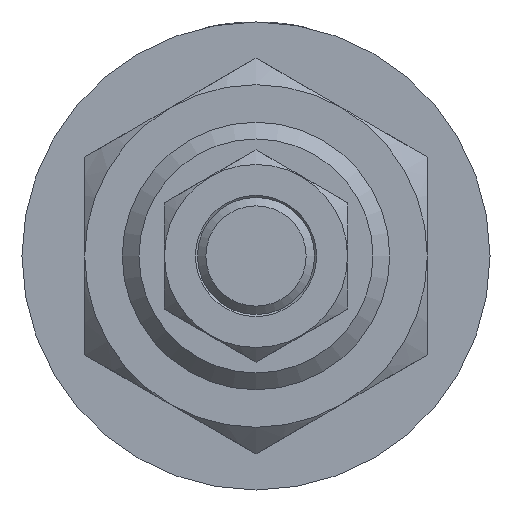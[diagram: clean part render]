
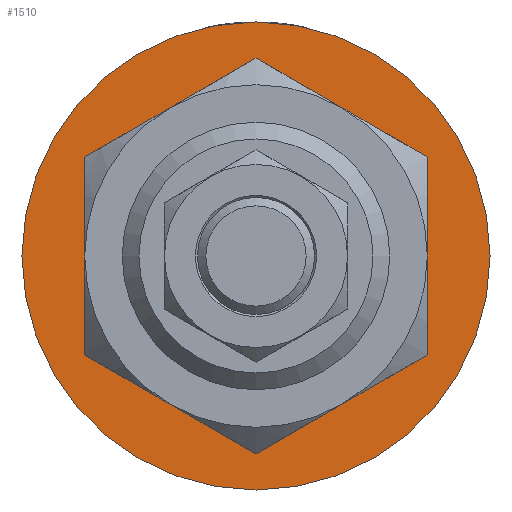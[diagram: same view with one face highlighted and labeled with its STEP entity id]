
A CAD part, front view. The second image highlights one B-rep face of the part: STEP entity #1510.
In plain terms, the highlighted planar face has unit normal (0, -1, 0).
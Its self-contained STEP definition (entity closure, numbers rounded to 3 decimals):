
#142=PLANE('',#1625);
#189=CIRCLE('',#1622,16.);
#191=CIRCLE('',#1626,28.);
#257=ORIENTED_EDGE('',*,*,#492,.T.);
#258=ORIENTED_EDGE('',*,*,#490,.T.);
#490=EDGE_CURVE('',#612,#612,#189,.F.);
#492=EDGE_CURVE('',#614,#614,#191,.T.);
#612=VERTEX_POINT('',#2112);
#614=VERTEX_POINT('',#2118);
#743=EDGE_LOOP('',(#257));
#744=EDGE_LOOP('',(#258));
#861=FACE_BOUND('',#743,.T.);
#862=FACE_BOUND('',#744,.T.);
#1510=ADVANCED_FACE('',(#861,#862),#142,.T.);
#1622=AXIS2_PLACEMENT_3D('',#2111,#1784,#1785);
#1625=AXIS2_PLACEMENT_3D('',#2116,#1790,#1791);
#1626=AXIS2_PLACEMENT_3D('',#2117,#1792,#1793);
#1784=DIRECTION('',(0.,-1.,0.));
#1785=DIRECTION('',(0.,0.,-1.));
#1790=DIRECTION('',(0.,-1.,0.));
#1791=DIRECTION('',(0.,0.,-1.));
#1792=DIRECTION('',(0.,-1.,0.));
#1793=DIRECTION('',(0.,0.,-1.));
#2111=CARTESIAN_POINT('',(0.,-22.,0.));
#2112=CARTESIAN_POINT('',(0.,-22.,-16.));
#2116=CARTESIAN_POINT('',(0.,-22.,0.));
#2117=CARTESIAN_POINT('',(0.,-22.,0.));
#2118=CARTESIAN_POINT('',(0.,-22.,-28.));
